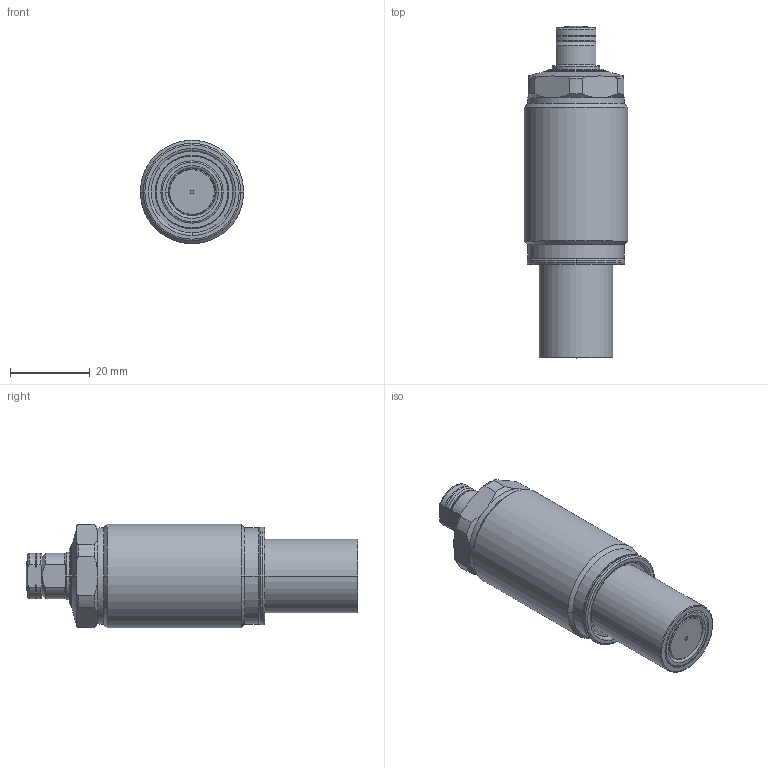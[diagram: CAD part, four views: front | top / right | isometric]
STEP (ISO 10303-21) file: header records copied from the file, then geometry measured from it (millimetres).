
FILE_DESCRIPTION(/* description */ (''),/* implementation_level */ '2;1');
FILE_NAME(/* name */ 'GSC00-Q.stp',/* time_stamp */ '2025-01-10T09:07:22+08:00',/* author */ (''),/* organization */ (''),/* preprocessor_version */ 'ST-DEVELOPER v16.7',/* originating_system */ 'SIEMENS PLM Software NX 12.0',/* authorisation */ '');
FILE_SCHEMA (('AUTOMOTIVE_DESIGN { 1 0 10303 214 3 1 1 1 }'));
Length unit declared in the file: millimetre
Products named in the file (7): GSC00-Q-06; GSC00-Q-05; GSC00-Q-04; GSC00-Q-03; GSC00-Q-02; GSC00-Q-01; GSC00-Q_stp
Assembly tree (6 placements, depth 2):
  GSC00-Q_stp
    GSC00-Q-01
    GSC00-Q-02
    GSC00-Q-03
    GSC00-Q-04
    GSC00-Q-05
    GSC00-Q-06
Bounding box: 26 x 83.5 x 26 mm (x, y, z)
Volume: 31846.2 mm3; surface area: 9450.8 mm2
Topology: 6 solids, 6 shells, 167 faces, 374 edges, 227 vertices
Faces by surface type: cylinder 50, torus 48, plane 37, cone 30, sphere 2
Full cylindrical faces by diameter (mm): 24.2 x1, 26 x1
Entity records: 5198 total; most frequent: CARTESIAN_POINT 1215, DIRECTION 890, ORIENTED_EDGE 748, AXIS2_PLACEMENT_3D 398, EDGE_CURVE 374, VERTEX_POINT 229, CIRCLE 218, EDGE_LOOP 185
